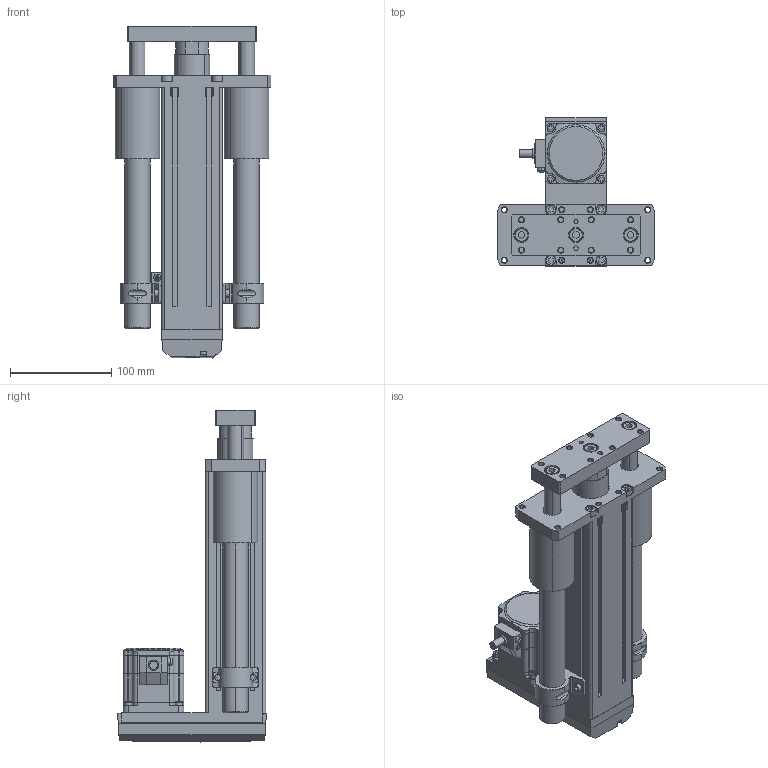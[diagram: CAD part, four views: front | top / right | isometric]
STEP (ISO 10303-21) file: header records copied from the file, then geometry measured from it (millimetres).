
FILE_DESCRIPTION (( 'STEP AP203' ), '1' );
FILE_NAME ('EACM6RWD15ARAK-G.step', '2013-11-07T05:36:13', ( 'om' ), ( 'Hewlett-Packard Company' ), 'SwSTEP 2.0', 'SolidWorks 2011', '' );
FILE_SCHEMA (( 'CONFIG_CONTROL_DESIGN' ));
Length unit declared in the file: millimetre
Products named in the file (5): EACM6RWD15ARAK-G; EACM6RWD15ARAK-G_BASE; EACM6RWD15ARAK-G_Rod; EACM6RWD15ARAK-G_Nut; EACM6RWD15ARAK-G_Motor
Assembly tree (3 placements, depth 2):
  EACM6RWD15ARAK-G
    EACM6RWD15ARAK-G_BASE
    EACM6RWD15ARAK-G_Rod
    EACM6RWD15ARAK-G_Motor
  EACM6RWD15ARAK-G_Nut
Bounding box: 156 x 146.6 x 328.31 mm (x, y, z)
Volume: 1817279.2 mm3; surface area: 346218.8 mm2
Topology: 3 solids, 16 shells, 1100 faces, 2751 edges, 1757 vertices
Faces by surface type: plane 580, cylinder 370, cone 104, torus 34, bspline 12
Entity records: 33961 total; most frequent: CARTESIAN_POINT 6594, DIRECTION 5738, ORIENTED_EDGE 5486, EDGE_CURVE 2743, AXIS2_PLACEMENT_3D 2005, VERTEX_POINT 1757, VECTOR 1728, LINE 1728
